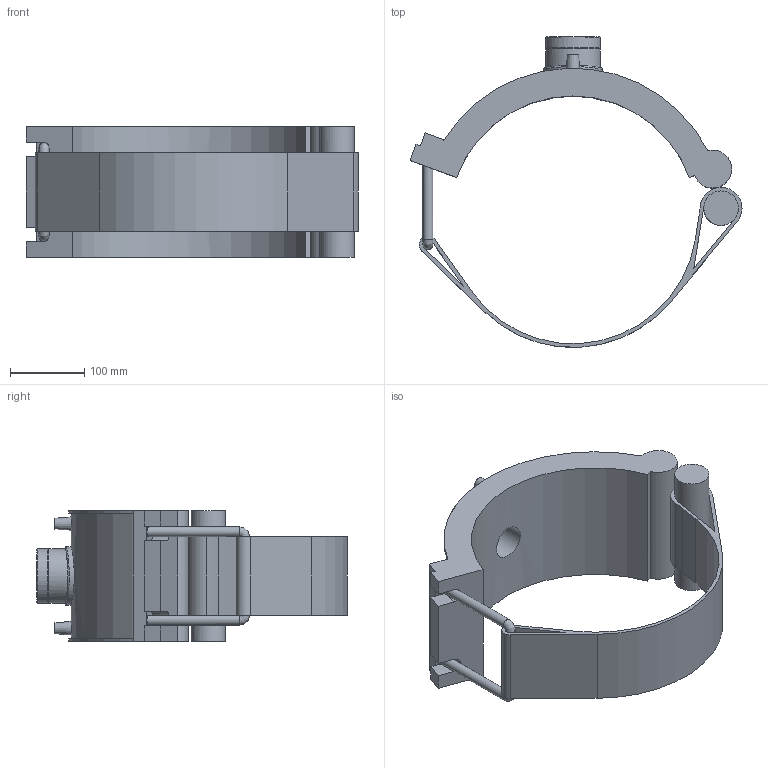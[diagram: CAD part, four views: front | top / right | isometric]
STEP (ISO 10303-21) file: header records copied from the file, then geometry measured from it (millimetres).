
FILE_DESCRIPTION(/* description */ ('PLASSON TRANSITION SADDLE 12''''DIPS x 2"NPT'),/* implementation_level */ '2;1');
FILE_NAME(/* name */ 'C:\Dropbox\KIMPROJECTS-Inventor 2019\99-16-3568-Processing Inch\ASTM ElectroFusion 2021\5938D\5938D01312055.ipt.stp',/* time_stamp */ '2021-08-30T09:52:27+03:00',/* author */ ('KIM'),/* organization */ (''),/* preprocessor_version */ 'ST-DEVELOPER v17.2',/* originating_system */ 'Autodesk Inventor 2019',/* authorisation */ '');
FILE_SCHEMA (('AUTOMOTIVE_DESIGN { 1 0 10303 214 3 1 1 }'));
Length unit declared in the file: inch
Products named in the file (1): 5938D01312055
Bounding box: 447.33 x 418.67 x 176.02 mm (x, y, z)
Volume: 3988102.6 mm3; surface area: 472485.2 mm2
Topology: 1 solids, 1 shells, 78 faces, 202 edges, 132 vertices
Faces by surface type: plane 42, cylinder 28, cone 5, torus 2, bspline 1
Full cylindrical faces by diameter (mm): 4 x2, 10 x2, 13.352 x2, 45.325 x1, 46.475 x1, 56.656 x1, 72.653 x1, 73.653 x2, 79.318 x1
Entity records: 2889 total; most frequent: CARTESIAN_POINT 854, DIRECTION 422, ORIENTED_EDGE 406, EDGE_CURVE 203, AXIS2_PLACEMENT_3D 154, VERTEX_POINT 132, LINE 114, VECTOR 114
